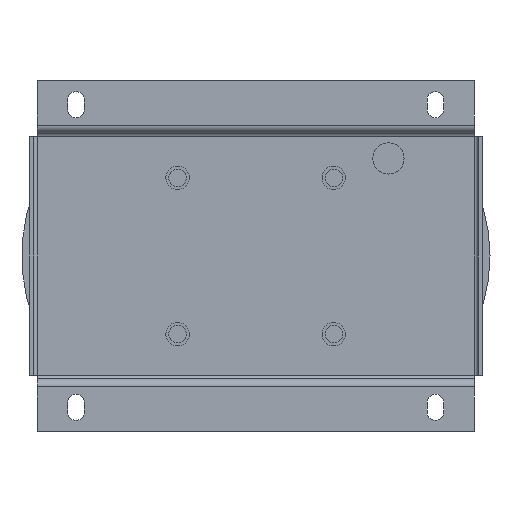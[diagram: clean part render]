
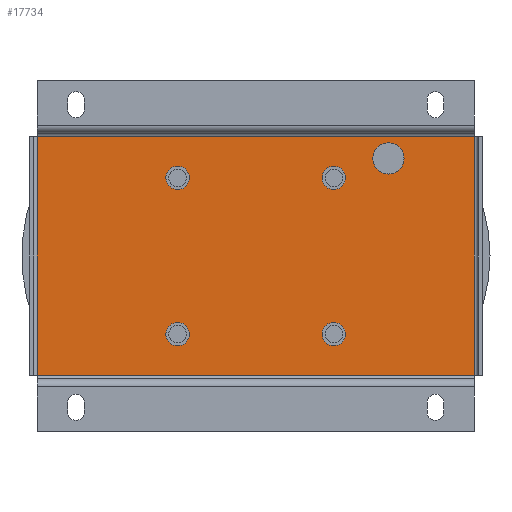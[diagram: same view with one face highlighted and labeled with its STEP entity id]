
A CAD part, front view. The second image highlights one B-rep face of the part: STEP entity #17734.
In plain terms, the highlighted planar face has unit normal (0, -1, 0).
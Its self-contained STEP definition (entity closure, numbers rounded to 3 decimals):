
#551 = FACE_BOUND ( 'NONE', #3688, .T. ) ;
#557 = CIRCLE ( 'NONE', #3096, 8. ) ;
#650 = FACE_OUTER_BOUND ( 'NONE', #10331, .T. ) ;
#652 = LINE ( 'NONE', #1953, #6738 ) ;
#666 = DIRECTION ( 'NONE',  ( 0., -1., 0. ) ) ;
#676 = CARTESIAN_POINT ( 'NONE',  ( 112., 16., -61. ) ) ;
#825 = DIRECTION ( 'NONE',  ( 1., 0., 0. ) ) ;
#910 = ORIENTED_EDGE ( 'NONE', *, *, #16071, .F. ) ;
#1025 = DIRECTION ( 'NONE',  ( 1., 0., 0. ) ) ;
#1377 = CARTESIAN_POINT ( 'NONE',  ( 34., 16., 40. ) ) ;
#1395 = CARTESIAN_POINT ( 'NONE',  ( -112., 16., 61. ) ) ;
#1668 = CIRCLE ( 'NONE', #12891, 6. ) ;
#1706 = EDGE_CURVE ( 'NONE', #6465, #19424, #652, .T. ) ;
#1717 = DIRECTION ( 'NONE',  ( 1., 0., 0. ) ) ;
#1782 = AXIS2_PLACEMENT_3D ( 'NONE', #18491, #4861, #15570 ) ;
#1826 = ORIENTED_EDGE ( 'NONE', *, *, #7623, .F. ) ;
#1953 = CARTESIAN_POINT ( 'NONE',  ( -112., 16., -61. ) ) ;
#2047 = DIRECTION ( 'NONE',  ( 1., 0., 0. ) ) ;
#2353 = EDGE_LOOP ( 'NONE', ( #19311, #3364 ) ) ;
#2398 = DIRECTION ( 'NONE',  ( 1., 0., 0. ) ) ;
#2403 = VERTEX_POINT ( 'NONE', #10732 ) ;
#2485 = CARTESIAN_POINT ( 'NONE',  ( -40., 16., -40. ) ) ;
#2772 = VECTOR ( 'NONE', #9879, 1000. ) ;
#3025 = CIRCLE ( 'NONE', #17463, 8. ) ;
#3096 = AXIS2_PLACEMENT_3D ( 'NONE', #3739, #11838, #6850 ) ;
#3364 = ORIENTED_EDGE ( 'NONE', *, *, #14695, .F. ) ;
#3366 = CARTESIAN_POINT ( 'NONE',  ( -46., 16., 40. ) ) ;
#3430 = DIRECTION ( 'NONE',  ( 0., -1., 0. ) ) ;
#3673 = CARTESIAN_POINT ( 'NONE',  ( 40., 16., -40. ) ) ;
#3688 = EDGE_LOOP ( 'NONE', ( #17794, #16549 ) ) ;
#3739 = CARTESIAN_POINT ( 'NONE',  ( 68., 16., 50. ) ) ;
#3820 = ORIENTED_EDGE ( 'NONE', *, *, #1706, .F. ) ;
#4025 = ORIENTED_EDGE ( 'NONE', *, *, #11712, .F. ) ;
#4174 = EDGE_CURVE ( 'NONE', #6301, #19424, #10811, .T. ) ;
#4370 = CIRCLE ( 'NONE', #17513, 6. ) ;
#4861 = DIRECTION ( 'NONE',  ( 0., -1., 0. ) ) ;
#4916 = CARTESIAN_POINT ( 'NONE',  ( 112., 16., 61. ) ) ;
#4952 = EDGE_CURVE ( 'NONE', #6219, #11963, #10424, .T. ) ;
#5010 = EDGE_CURVE ( 'NONE', #2403, #17114, #4370, .T. ) ;
#5672 = VERTEX_POINT ( 'NONE', #9295 ) ;
#5967 = CARTESIAN_POINT ( 'NONE',  ( 40., 16., -40. ) ) ;
#6219 = VERTEX_POINT ( 'NONE', #6425 ) ;
#6301 = VERTEX_POINT ( 'NONE', #10928 ) ;
#6425 = CARTESIAN_POINT ( 'NONE',  ( -34., 16., 40. ) ) ;
#6465 = VERTEX_POINT ( 'NONE', #13117 ) ;
#6486 = EDGE_CURVE ( 'NONE', #13746, #5672, #9198, .T. ) ;
#6573 = FACE_BOUND ( 'NONE', #2353, .T. ) ;
#6585 = CIRCLE ( 'NONE', #18117, 6. ) ;
#6738 = VECTOR ( 'NONE', #12880, 1000. ) ;
#6758 = CARTESIAN_POINT ( 'NONE',  ( 40., 16., 40. ) ) ;
#6850 = DIRECTION ( 'NONE',  ( 1., 0., 0. ) ) ;
#7138 = EDGE_CURVE ( 'NONE', #14225, #10446, #557, .T. ) ;
#7521 = CARTESIAN_POINT ( 'NONE',  ( -34., 16., -40. ) ) ;
#7623 = EDGE_CURVE ( 'NONE', #5672, #13746, #17239, .T. ) ;
#7728 = ORIENTED_EDGE ( 'NONE', *, *, #18573, .F. ) ;
#7968 = CARTESIAN_POINT ( 'NONE',  ( 60., 16., 50. ) ) ;
#8514 = ORIENTED_EDGE ( 'NONE', *, *, #7138, .F. ) ;
#8608 = EDGE_CURVE ( 'NONE', #17114, #2403, #9577, .T. ) ;
#9198 = CIRCLE ( 'NONE', #16590, 6. ) ;
#9295 = CARTESIAN_POINT ( 'NONE',  ( -46., 16., -40. ) ) ;
#9367 = DIRECTION ( 'NONE',  ( 1., 0., 0. ) ) ;
#9562 = FACE_BOUND ( 'NONE', #9636, .T. ) ;
#9577 = CIRCLE ( 'NONE', #12144, 6. ) ;
#9636 = EDGE_LOOP ( 'NONE', ( #8514, #19674 ) ) ;
#9879 = DIRECTION ( 'NONE',  ( -1., 0., 0. ) ) ;
#10071 = VECTOR ( 'NONE', #19782, 1000. ) ;
#10269 = CIRCLE ( 'NONE', #11871, 6. ) ;
#10331 = EDGE_LOOP ( 'NONE', ( #3820, #910, #4025, #13056 ) ) ;
#10424 = CIRCLE ( 'NONE', #1782, 6. ) ;
#10446 = VERTEX_POINT ( 'NONE', #18073 ) ;
#10732 = CARTESIAN_POINT ( 'NONE',  ( 46., 16., 40. ) ) ;
#10811 = LINE ( 'NONE', #15343, #10071 ) ;
#10928 = CARTESIAN_POINT ( 'NONE',  ( 112., 16., 61. ) ) ;
#11256 = CARTESIAN_POINT ( 'NONE',  ( 40., 16., 40. ) ) ;
#11471 = AXIS2_PLACEMENT_3D ( 'NONE', #16156, #15954, #2398 ) ;
#11590 = AXIS2_PLACEMENT_3D ( 'NONE', #12774, #12972, #2047 ) ;
#11712 = EDGE_CURVE ( 'NONE', #6301, #19620, #12408, .T. ) ;
#11805 = DIRECTION ( 'NONE',  ( 1., 0., 0. ) ) ;
#11838 = DIRECTION ( 'NONE',  ( 0., -1., 0. ) ) ;
#11871 = AXIS2_PLACEMENT_3D ( 'NONE', #5967, #17004, #9367 ) ;
#11963 = VERTEX_POINT ( 'NONE', #3366 ) ;
#12144 = AXIS2_PLACEMENT_3D ( 'NONE', #6758, #17588, #17287 ) ;
#12408 = LINE ( 'NONE', #4916, #12826 ) ;
#12774 = CARTESIAN_POINT ( 'NONE',  ( 0., 16., 0. ) ) ;
#12826 = VECTOR ( 'NONE', #14025, 1000. ) ;
#12878 = FACE_BOUND ( 'NONE', #13305, .T. ) ;
#12880 = DIRECTION ( 'NONE',  ( 0., 0., 1. ) ) ;
#12891 = AXIS2_PLACEMENT_3D ( 'NONE', #3673, #666, #17523 ) ;
#12958 = VERTEX_POINT ( 'NONE', #16417 ) ;
#12972 = DIRECTION ( 'NONE',  ( 0., -1., 0. ) ) ;
#13056 = ORIENTED_EDGE ( 'NONE', *, *, #4174, .T. ) ;
#13078 = EDGE_CURVE ( 'NONE', #12958, #17244, #10269, .T. ) ;
#13117 = CARTESIAN_POINT ( 'NONE',  ( -112., 16., -61. ) ) ;
#13305 = EDGE_LOOP ( 'NONE', ( #15187, #1826 ) ) ;
#13746 = VERTEX_POINT ( 'NONE', #7521 ) ;
#14025 = DIRECTION ( 'NONE',  ( 0., 0., -1. ) ) ;
#14085 = FACE_BOUND ( 'NONE', #18711, .T. ) ;
#14225 = VERTEX_POINT ( 'NONE', #7968 ) ;
#14372 = CARTESIAN_POINT ( 'NONE',  ( 112., 16., -61. ) ) ;
#14476 = EDGE_CURVE ( 'NONE', #10446, #14225, #3025, .T. ) ;
#14695 = EDGE_CURVE ( 'NONE', #11963, #6219, #6585, .T. ) ;
#15187 = ORIENTED_EDGE ( 'NONE', *, *, #6486, .F. ) ;
#15343 = CARTESIAN_POINT ( 'NONE',  ( 112., 16., 61. ) ) ;
#15566 = CARTESIAN_POINT ( 'NONE',  ( 68., 16., 50. ) ) ;
#15570 = DIRECTION ( 'NONE',  ( 1., 0., 0. ) ) ;
#15820 = LINE ( 'NONE', #676, #2772 ) ;
#15881 = DIRECTION ( 'NONE',  ( 0., -1., 0. ) ) ;
#15954 = DIRECTION ( 'NONE',  ( 0., -1., 0. ) ) ;
#16071 = EDGE_CURVE ( 'NONE', #19620, #6465, #15820, .T. ) ;
#16156 = CARTESIAN_POINT ( 'NONE',  ( -40., 16., -40. ) ) ;
#16417 = CARTESIAN_POINT ( 'NONE',  ( 46., 16., -40. ) ) ;
#16549 = ORIENTED_EDGE ( 'NONE', *, *, #8608, .F. ) ;
#16590 = AXIS2_PLACEMENT_3D ( 'NONE', #2485, #18979, #11805 ) ;
#16980 = DIRECTION ( 'NONE',  ( 0., -1., 0. ) ) ;
#17004 = DIRECTION ( 'NONE',  ( 0., -1., 0. ) ) ;
#17114 = VERTEX_POINT ( 'NONE', #1377 ) ;
#17177 = CARTESIAN_POINT ( 'NONE',  ( -40., 16., 40. ) ) ;
#17239 = CIRCLE ( 'NONE', #11471, 6. ) ;
#17244 = VERTEX_POINT ( 'NONE', #17330 ) ;
#17287 = DIRECTION ( 'NONE',  ( 1., 0., 0. ) ) ;
#17330 = CARTESIAN_POINT ( 'NONE',  ( 34., 16., -40. ) ) ;
#17463 = AXIS2_PLACEMENT_3D ( 'NONE', #15566, #16980, #1717 ) ;
#17513 = AXIS2_PLACEMENT_3D ( 'NONE', #11256, #15881, #825 ) ;
#17523 = DIRECTION ( 'NONE',  ( 1., 0., 0. ) ) ;
#17538 = ORIENTED_EDGE ( 'NONE', *, *, #13078, .F. ) ;
#17588 = DIRECTION ( 'NONE',  ( 0., -1., 0. ) ) ;
#17734 = ADVANCED_FACE ( 'NONE', ( #9562, #14085, #12878, #551, #6573, #650 ), #18918, .T. ) ;
#17794 = ORIENTED_EDGE ( 'NONE', *, *, #5010, .F. ) ;
#18073 = CARTESIAN_POINT ( 'NONE',  ( 76., 16., 50. ) ) ;
#18117 = AXIS2_PLACEMENT_3D ( 'NONE', #17177, #3430, #1025 ) ;
#18491 = CARTESIAN_POINT ( 'NONE',  ( -40., 16., 40. ) ) ;
#18573 = EDGE_CURVE ( 'NONE', #17244, #12958, #1668, .T. ) ;
#18711 = EDGE_LOOP ( 'NONE', ( #17538, #7728 ) ) ;
#18918 = PLANE ( 'NONE',  #11590 ) ;
#18979 = DIRECTION ( 'NONE',  ( 0., -1., 0. ) ) ;
#19311 = ORIENTED_EDGE ( 'NONE', *, *, #4952, .F. ) ;
#19424 = VERTEX_POINT ( 'NONE', #1395 ) ;
#19620 = VERTEX_POINT ( 'NONE', #14372 ) ;
#19674 = ORIENTED_EDGE ( 'NONE', *, *, #14476, .F. ) ;
#19782 = DIRECTION ( 'NONE',  ( -1., 0., 0. ) ) ;
